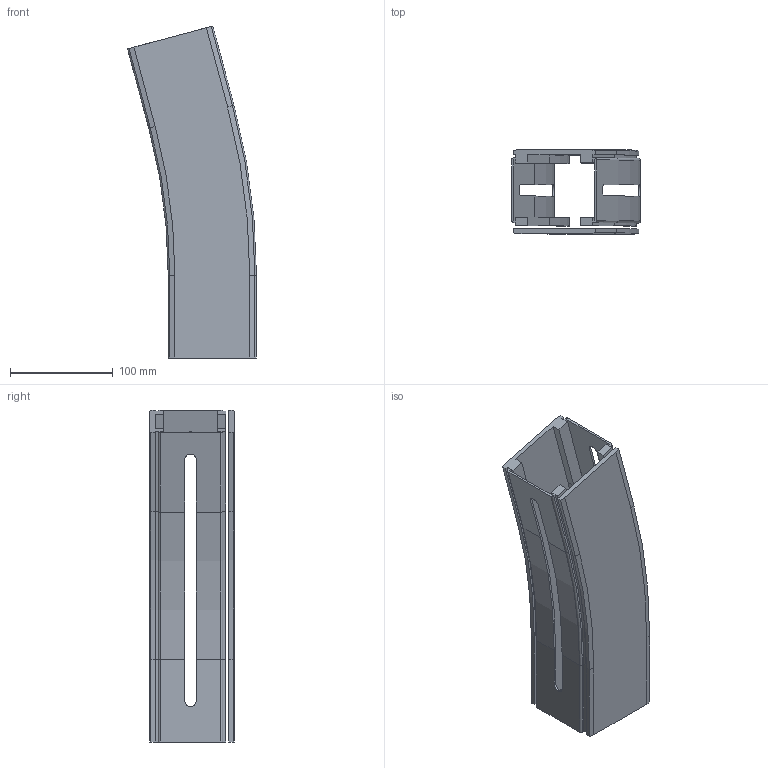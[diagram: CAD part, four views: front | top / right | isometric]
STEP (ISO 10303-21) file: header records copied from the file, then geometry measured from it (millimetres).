
FILE_DESCRIPTION((''),'2;1');
FILE_NAME('C:\Vault Klient\Projekt\Koncept konstruktion\Serie 530 Balk\530-5330.stp','2010-12-01T08:18:53',('Mathias'),(''),'Autodesk Inventor 2011','Autodesk Inventor 2011','');
FILE_SCHEMA(('AUTOMOTIVE_DESIGN { 1 0 10303 214 1 1 1 1 }'));
Length unit declared in the file: millimetre
Products named in the file (1): 530-5330
Bounding box: 125.68 x 82 x 323.69 mm (x, y, z)
Volume: 459342.8 mm3; surface area: 221704.1 mm2
Topology: 2 solids, 2 shells, 155 faces, 434 edges, 284 vertices
Faces by surface type: plane 97, cylinder 36, bspline 14, cone 4, torus 4
Entity records: 5130 total; most frequent: CARTESIAN_POINT 1068, ORIENTED_EDGE 868, DIRECTION 770, EDGE_CURVE 434, VECTOR 326, LINE 326, VERTEX_POINT 284, AXIS2_PLACEMENT_3D 222
